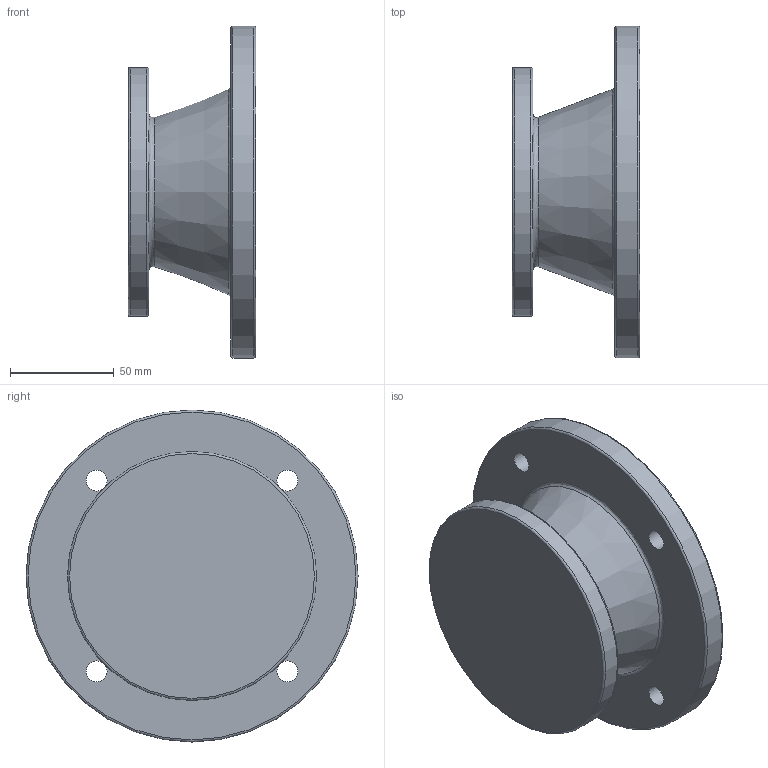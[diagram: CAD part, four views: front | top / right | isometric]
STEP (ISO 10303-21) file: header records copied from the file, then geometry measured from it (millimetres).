
FILE_DESCRIPTION((''),'2;1');
FILE_NAME('D:\PAWEŁ\ZLECENIA\2011 DualSystem\Przekładnie DR\DR10\STEP\71_B5_L61,5.stp','2012-06-11T11:45:52',('admin'),(''),'Autodesk Inventor 2009','Autodesk Inventor 2009','');
FILE_SCHEMA(('AUTOMOTIVE_DESIGN { 1 0 10303 214 1 1 1 1 }'));
Length unit declared in the file: millimetre
Products named in the file (1): 71_B5_L61,5
Bounding box: 61.5 x 160 x 160 mm (x, y, z)
Volume: 341189.1 mm3; surface area: 84174.5 mm2
Topology: 1 solids, 1 shells, 29 faces, 56 edges, 35 vertices
Faces by surface type: plane 11, bspline 6, cylinder 5, torus 5, cone 2
Full cylindrical faces by diameter (mm): 24 x1, 100 x1, 120 x1, 160 x1
Entity records: 874 total; most frequent: CARTESIAN_POINT 278, DIRECTION 116, ORIENTED_EDGE 78, EDGE_LOOP 60, AXIS2_PLACEMENT_3D 53, EDGE_CURVE 39, VERTEX_POINT 35, FACE_BOUND 31
